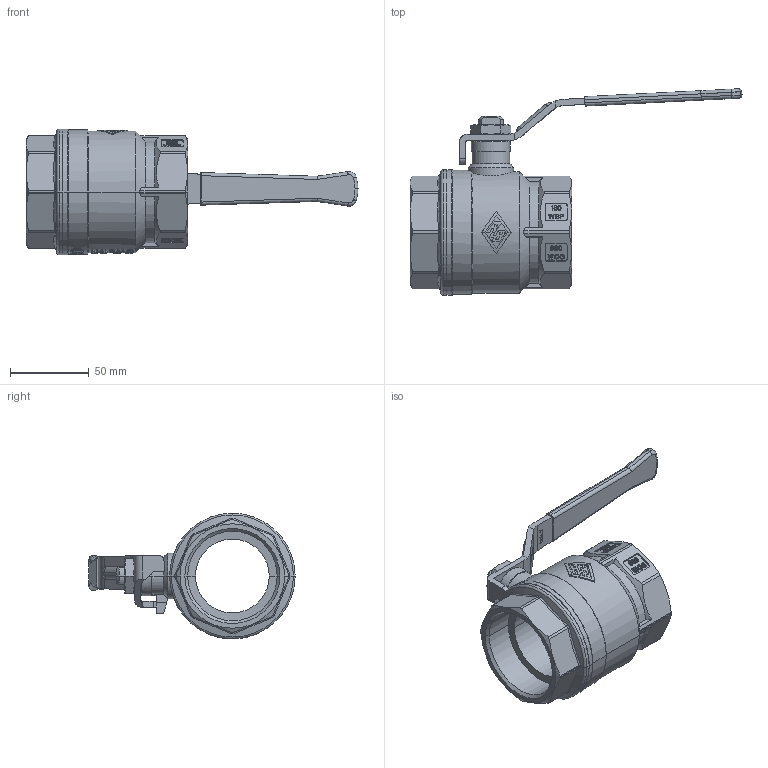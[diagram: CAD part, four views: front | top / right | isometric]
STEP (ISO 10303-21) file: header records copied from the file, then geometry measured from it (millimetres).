
FILE_DESCRIPTION(('CoCreate Modeling STEP Export'),'2;1');
FILE_NAME('1510100000.stp','2010-11-23T14:02:04',(''),(''),'CoCreate Modeling STEP processor for AP214 (Solid Model)','CoCreate Modeling 16.00D 29-May-2009 (C) Parametric Technology GmbH','');
FILE_SCHEMA(('AUTOMOTIVE_DESIGN { 1 0 10303 214 1 1 1 1 }'));
Products named in the file (2): 1510100000
Assembly tree (1 placements, depth 2):
  1510100000
    1510100000
Bounding box: 211.45 x 131.44 x 80 mm (x, y, z)
Volume: 260552.4 mm3; surface area: 59483.2 mm2
Topology: 1 solids, 1 shells, 2178 faces, 6201 edges, 4098 vertices
Faces by surface type: plane 1853, cylinder 221, cone 59, torus 37, bspline 8
Entity records: 84207 total; most frequent: CARTESIAN_POINT 25720, ORIENTED_EDGE 12398, DIRECTION 11315, EDGE_CURVE 6199, VECTOR 4137, LINE 4137, VERTEX_POINT 4098, AXIS2_PLACEMENT_3D 3589
